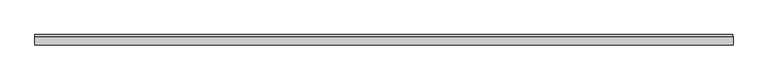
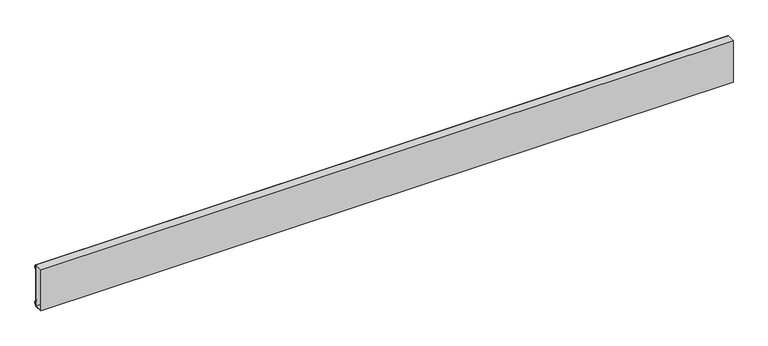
"""IFC4 building model written with IfcOpenShell, lengths in millimetres: proxy geometry, BIMHealth-Dado_Double_Trunking-LOD2A-v1 : BIMHealth-Dado_Double_Trunking-LOD2A-v1."""

from ifc_helpers import new_model, si_unit, point, frame, frame_2d, origin, place, context, project, spatial, polyline, circle_curve, trimmed, segment, composite_curve, outline, extrude, source, transform, mapped, element, save


def generic_models_0edea333(model_context):
    return source(origin(), model_context, "Body", "SweptSolid", [
        extrude(outline(polyline([(4029.4521507, 2.0), (4029.4521507, 0.0), (0.0, 0.0), (0.0, 2.0), (4029.4521507, 2.0)])), frame((0.0, 0.0, 182.5), z_axis=(0.0, 0.0, 1.0), x_axis=(1.0, 0.0, 0.0)), (0.0, 0.0, 1.0), 10.0),
        extrude(outline(polyline([(4029.4521507, 2.0), (4029.4521507, 0.0), (0.0, 0.0), (0.0, 2.0), (4029.4521507, 2.0)])), frame((0.0, 0.0, 117.5483443), z_axis=(0.0, 0.0, 1.0), x_axis=(1.0, 0.0, 0.0)), (0.0, 0.0, 1.0), 25.0),
        extrude(outline(composite_curve([segment(polyline([(0.0, 220.0), (0.0, 255.0)]), True, "CONTINUOUS"), segment(trimmed(circle_curve(frame_2d((-9.7819278, 237.5)), 20.0483443), [point((0.0, 255.0))], [point((0.0, 220.0))], False, "CARTESIAN"), True, "CONTINUOUS")], self_intersect=False)), frame((0.0, 0.0, 0.0), z_axis=(1.0, 0.0, 0.0), x_axis=(0.0, 1.0, 0.0)), (0.0, 0.0, 1.0), 4029.4521507),
        extrude(outline(composite_curve([segment(polyline([(0.0, 0.0), (0.0, 35.0)]), True, "CONTINUOUS"), segment(trimmed(circle_curve(frame_2d((-9.7819278, 17.5)), 20.0483443), [point((0.0, 35.0))], [point((0.0, 0.0))], False, "CARTESIAN"), True, "CONTINUOUS")], self_intersect=False)), frame((0.0, 0.0, 0.0), z_axis=(1.0, 0.0, 0.0), x_axis=(0.0, 1.0, 0.0)), (0.0, 0.0, 1.0), 4029.4521507),
        extrude(outline(polyline([(0.0, 0.0), (-50.0, 0.0), (-50.0, 255.0), (0.0, 255.0), (0.0, 0.0)]), holes=[polyline([(-45.0, 250.0), (-45.0, 5.0), (-5.0, 5.0), (-5.0, 250.0), (-45.0, 250.0)])]), frame((0.0, 0.0, 0.0), z_axis=(1.0, 0.0, 0.0), x_axis=(0.0, 1.0, 0.0)), (0.0, 0.0, 1.0), 4030.0),
    ])


if __name__ == "__main__":
    model = new_model("IFC4")
    model_context = context("Model", 3, world=origin())
    ifc_project = project(units=[si_unit("LENGTHUNIT", "METRE", prefix="MILLI")], contexts=[model_context])
    site = spatial("IfcSite", under=ifc_project)
    building = spatial("IfcBuilding", under=site)
    placement = place(None, origin())
    generic_models_shape = generic_models_0edea333(model_context)
    element("IfcBuildingElementProxy", 1, Name="BIMHealth-Dado_Double_Trunking-LOD2A-v1 : BIMHealth-Dado_Double_Trunking-LOD2A-v1", ObjectType="BIMHealth-Dado_Double_Trunking-LOD2A-v1 : BIMHealth-Dado_Double_Trunking-LOD2A-v1", at=placement, inside=building, context=model_context, shape_type="MappedRepresentation", body=[
        mapped(generic_models_shape, transform((0.0, 0.0, 0.0), x_axis=(1.0, 0.0, 0.0), y_axis=(0.0, 1.0, 0.0), z_axis=(0.0, 0.0, 1.0))),
    ])
    save(model, "model.ifc")
